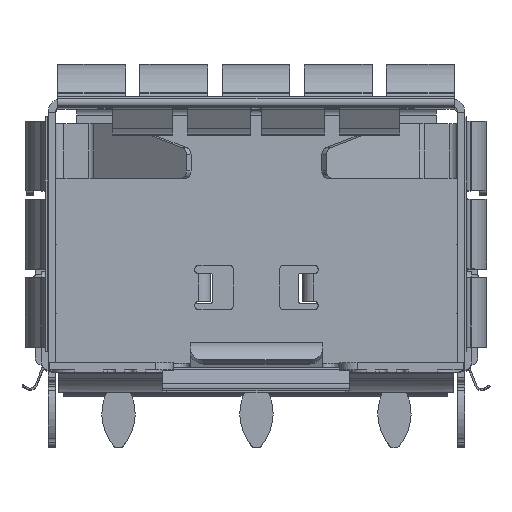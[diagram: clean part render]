
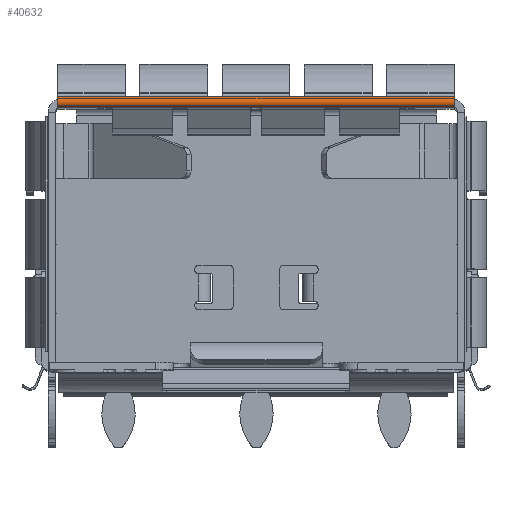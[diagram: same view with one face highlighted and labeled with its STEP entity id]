
A CAD part, top view. The second image highlights one B-rep face of the part: STEP entity #40632.
In plain terms, the highlighted cylindrical face has radius 0.185 mm (diameter 0.37 mm), a partial arc.
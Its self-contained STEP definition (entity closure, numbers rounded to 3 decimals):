
#1238 = FACE_OUTER_BOUND ( 'NONE', #40980, .T. ) ;
#2490 = CARTESIAN_POINT ( 'NONE',  ( 0.187, -0.06, -14.166 ) ) ;
#2681 = EDGE_CURVE ( 'NONE', #3924, #54446, #9858, .T. ) ;
#3924 = VERTEX_POINT ( 'NONE', #4917 ) ;
#4100 = CIRCLE ( 'NONE', #12199, 0.185 ) ;
#4917 = CARTESIAN_POINT ( 'NONE',  ( 0.187, -0.06, -14.166 ) ) ;
#5366 = CARTESIAN_POINT ( 'NONE',  ( 0.187, -0.06, -0.366 ) ) ;
#8119 = VERTEX_POINT ( 'NONE', #34398 ) ;
#9454 = AXIS2_PLACEMENT_3D ( 'NONE', #58143, #16900, #35476 ) ;
#9858 = LINE ( 'NONE', #2490, #57280 ) ;
#12199 = AXIS2_PLACEMENT_3D ( 'NONE', #20203, #52132, #24861 ) ;
#12691 = EDGE_CURVE ( 'NONE', #25872, #3924, #50192, .T. ) ;
#13748 = ORIENTED_EDGE ( 'NONE', *, *, #16697, .T. ) ;
#16697 = EDGE_CURVE ( 'NONE', #8119, #25872, #39042, .T. ) ;
#16900 = DIRECTION ( 'NONE',  ( 0., 0., 1. ) ) ;
#20203 = CARTESIAN_POINT ( 'NONE',  ( 0.187, 0.125, -0.366 ) ) ;
#20243 = ORIENTED_EDGE ( 'NONE', *, *, #12691, .T. ) ;
#21494 = DIRECTION ( 'NONE',  ( 1., 0., 0. ) ) ;
#21567 = DIRECTION ( 'NONE',  ( 0., 0., 1. ) ) ;
#21697 = CARTESIAN_POINT ( 'NONE',  ( 0.187, 0.125, -14.166 ) ) ;
#23193 = EDGE_CURVE ( 'NONE', #54446, #8119, #4100, .T. ) ;
#24693 = ORIENTED_EDGE ( 'NONE', *, *, #23193, .T. ) ;
#24861 = DIRECTION ( 'NONE',  ( 1., 0., 0. ) ) ;
#25872 = VERTEX_POINT ( 'NONE', #47903 ) ;
#28312 = VECTOR ( 'NONE', #43898, 1000. ) ;
#34398 = CARTESIAN_POINT ( 'NONE',  ( 0.187, 0.31, -0.366 ) ) ;
#35476 = DIRECTION ( 'NONE',  ( 1., 0., 0. ) ) ;
#36733 = ORIENTED_EDGE ( 'NONE', *, *, #2681, .T. ) ;
#39042 = LINE ( 'NONE', #43954, #28312 ) ;
#40632 = ADVANCED_FACE ( 'NONE', ( #1238 ), #59600, .T. ) ;
#40980 = EDGE_LOOP ( 'NONE', ( #13748, #20243, #36733, #24693 ) ) ;
#43898 = DIRECTION ( 'NONE',  ( 0., 0., -1. ) ) ;
#43954 = CARTESIAN_POINT ( 'NONE',  ( 0.187, 0.309, -67.435 ) ) ;
#47903 = CARTESIAN_POINT ( 'NONE',  ( 0.187, 0.31, -14.166 ) ) ;
#50192 = CIRCLE ( 'NONE', #59303, 0.185 ) ;
#52132 = DIRECTION ( 'NONE',  ( 0., 0., -1. ) ) ;
#54446 = VERTEX_POINT ( 'NONE', #5366 ) ;
#56502 = DIRECTION ( 'NONE',  ( 0., 0., 1. ) ) ;
#57280 = VECTOR ( 'NONE', #56502, 1000. ) ;
#58143 = CARTESIAN_POINT ( 'NONE',  ( 0.187, 0.124, -67.435 ) ) ;
#59303 = AXIS2_PLACEMENT_3D ( 'NONE', #21697, #21567, #21494 ) ;
#59600 = CYLINDRICAL_SURFACE ( 'NONE', #9454, 0.185 ) ;
